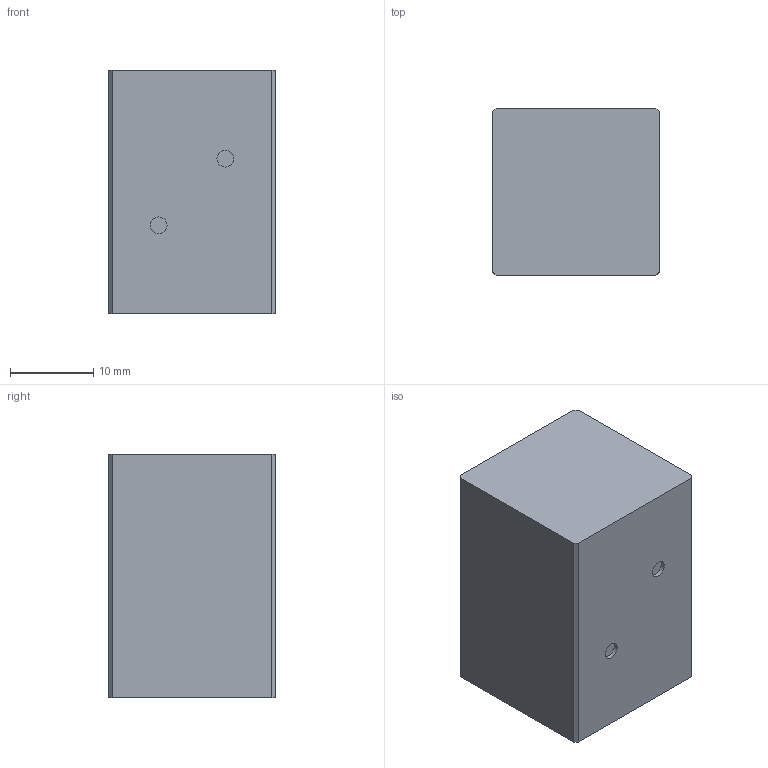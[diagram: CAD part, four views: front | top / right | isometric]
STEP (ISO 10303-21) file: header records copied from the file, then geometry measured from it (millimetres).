
FILE_DESCRIPTION(('Open CASCADE Model'),'2;1');
FILE_NAME('Open CASCADE Shape Model','2026-08-23T08:04:37',('Author'),( 'Open CASCADE'),'Open CASCADE STEP processor 7.9','Open CASCADE 7.9' ,'Unknown');
FILE_SCHEMA(('AUTOMOTIVE_DESIGN { 1 0 10303 214 1 1 1 1 }'));
Length unit declared in the file: millimetre
Products named in the file (2): =>[0:1:1:2]; COMPOUND
Assembly tree (1 placements, depth 2):
  =>[0:1:1:2]
    COMPOUND
Bounding box: 20 x 20 x 29.25 mm (x, y, z)
Volume: 11687.5 mm3; surface area: 3118.2 mm2
Topology: 1 solids, 1 shells, 14 faces, 30 edges, 20 vertices
Faces by surface type: plane 12, cylinder 2
Full cylindrical faces by diameter (mm): 2 x2
Entity records: 818 total; most frequent: CARTESIAN_POINT 138, DIRECTION 124, LINE 82, VECTOR 82, ORIENTED_EDGE 60, PCURVE 60, DEFINITIONAL_REPRESENTATION 60, EDGE_CURVE 30
